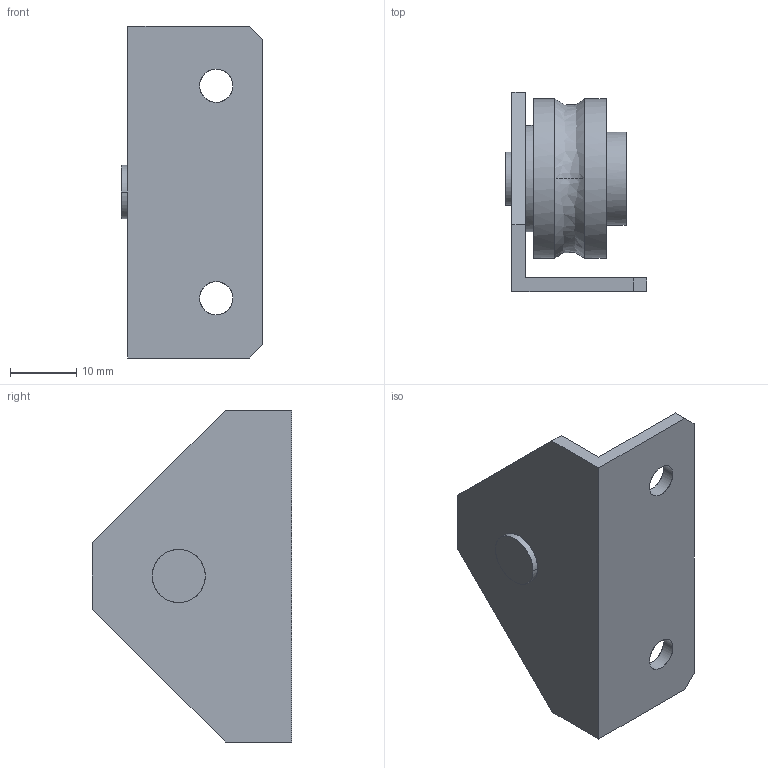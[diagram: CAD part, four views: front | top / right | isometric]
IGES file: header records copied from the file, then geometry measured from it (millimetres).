
Global section: file name: No Iges File Name specified; native system: AutoDesk Inventor R11.0; preprocessor: AutoDesk Inventor Iges Exporter R11.0; author: No Author specified; organization: No Organization specified; date: 20190426.192216; units: millimetre
Bounding box: 21.3 x 30 x 50 mm (x, y, z)
Surface area: 6321.8 mm2 (no closed solid volume)
Topology: 0 solids, 0 shells, 35 faces, 228 edges, 228 vertices
Faces by surface type: bspline 35
